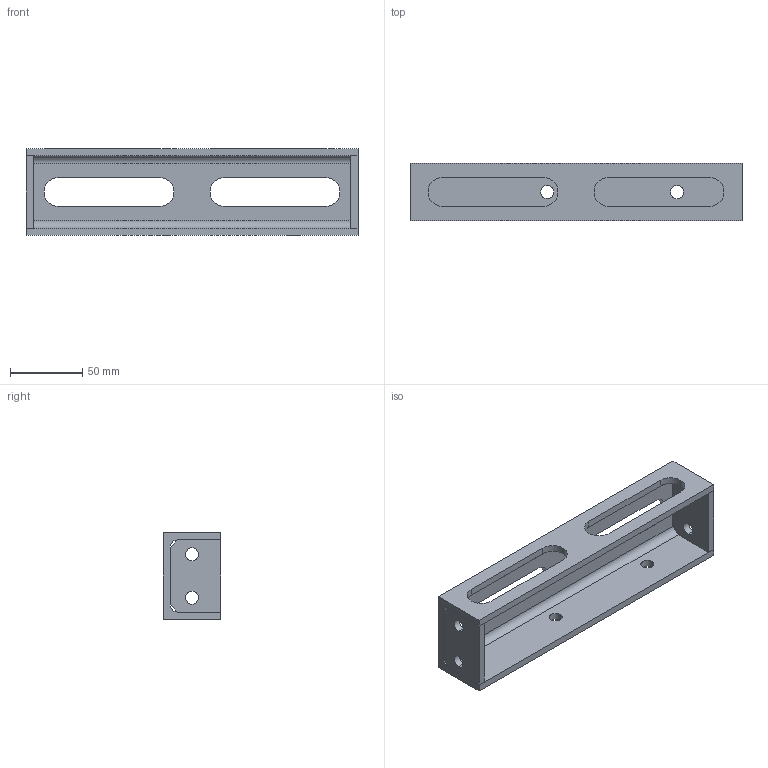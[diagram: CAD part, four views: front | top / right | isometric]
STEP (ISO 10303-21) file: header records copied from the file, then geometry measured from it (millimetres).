
FILE_DESCRIPTION (( 'STEP AP214' ), '1' );
FILE_NAME ('ÂØÀÅ.301343.024 Ïåðåìû÷êà.STEP', '2024-04-17T12:52:48', ( '' ), ( '' ), 'SwSTEP 2.0', 'SolidWorks 2019', '' );
FILE_SCHEMA (( 'AUTOMOTIVE_DESIGN' ));
Length unit declared in the file: millimetre
Products named in the file (3): ÂØÀÅ.301343.024 Ïåðåìû÷êà; ÂØÀÅ.746212.008 Ïåðåìû÷êà_230 ¡¥§ ®â¢; 贅斃.741124.122 砑僔蠂縺
Assembly tree (3 placements, depth 2):
  ÂØÀÅ.301343.024 Ïåðåìû÷êà
    ÂØÀÅ.746212.008 Ïåðåìû÷êà_230 ¡¥§ ®â¢
    贅斃.741124.122 砑僔蠂縺  x2
Bounding box: 230 x 40 x 60 mm (x, y, z)
Volume: 133026.2 mm3; surface area: 61403.9 mm2
Topology: 3 solids, 3 shells, 58 faces, 158 edges, 104 vertices
Faces by surface type: plane 34, cylinder 24
Entity records: 1630 total; most frequent: DIRECTION 272, CARTESIAN_POINT 264, ORIENTED_EDGE 256, EDGE_CURVE 128, AXIS2_PLACEMENT_3D 92, LINE 88, VECTOR 88, VERTEX_POINT 84
